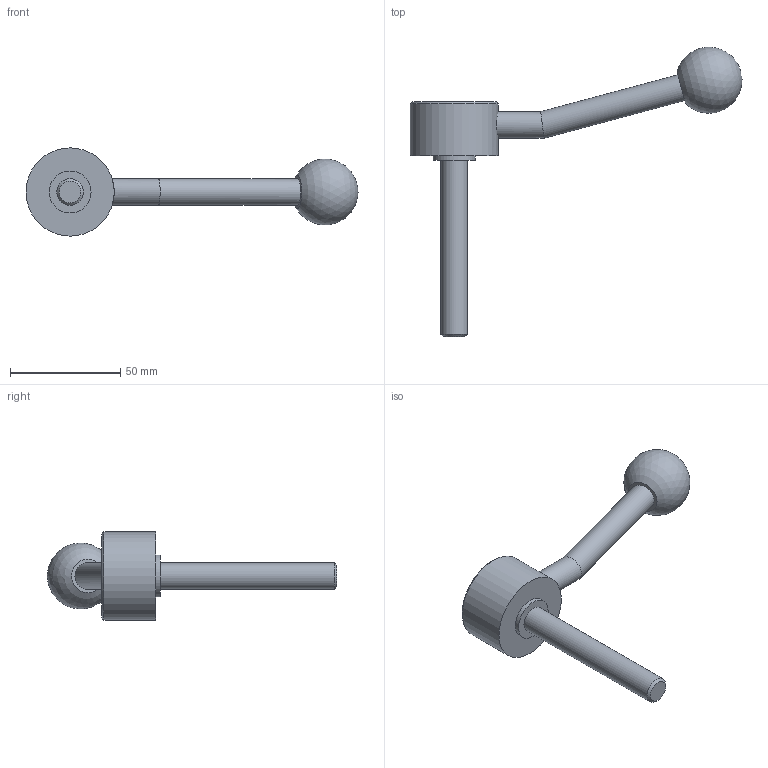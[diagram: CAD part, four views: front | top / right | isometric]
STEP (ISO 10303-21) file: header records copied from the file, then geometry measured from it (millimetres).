
FILE_DESCRIPTION( ( 'STEP AP203' ), '1' );
FILE_NAME( 'C:/Temp/Ganter_Step_05_03_2020/data/2_1/gn_125/gn_125_ms/gn_125_ms_e/Flat Adjustable Lever GN 125-40-M12-80-E.stp', '2020-03-05T11:01:02', ( 'License CC BY-ND 4.0' ), ( 'CADENAS' ), ' ', 'PARTsolutions', ' ' );
FILE_SCHEMA( ( 'CONFIG_CONTROL_DESIGN' ) );
Length unit declared in the file: millimetre
Products named in the file (1): _Flat Adjustable Lever GN 125-40-M12-80-E
Bounding box: 150.51 x 131.21 x 40 mm (x, y, z)
Volume: 63779.1 mm3; surface area: 14466 mm2
Topology: 1 solids, 1 shells, 15 faces, 25 edges, 16 vertices
Faces by surface type: cylinder 6, plane 6, cone 2, sphere 1
Full cylindrical faces by diameter (mm): 12 x3, 19 x1, 28 x1, 40 x1
Entity records: 422 total; most frequent: CARTESIAN_POINT 128, DIRECTION 58, AXIS2_PLACEMENT_3D 29, EDGE_LOOP 28, ORIENTED_EDGE 28, FACE_OUTER_BOUND 21, ADVANCED_FACE 15, VERTEX_POINT 15
